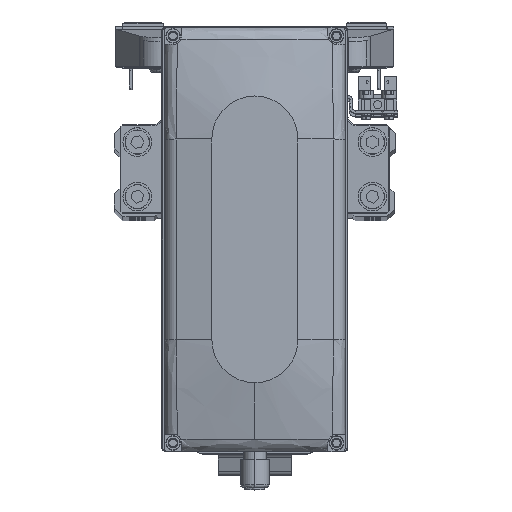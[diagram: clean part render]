
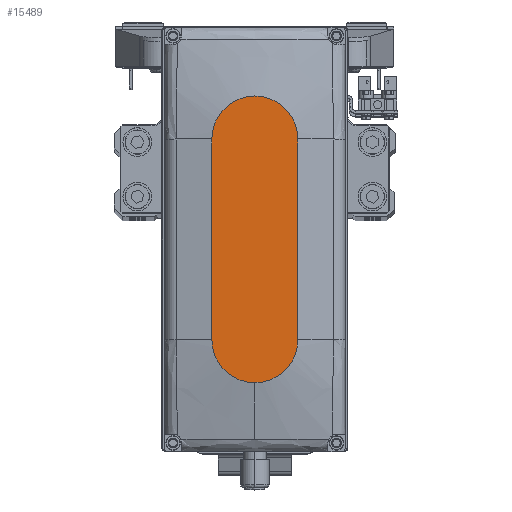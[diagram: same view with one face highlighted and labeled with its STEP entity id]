
A CAD part, top view. The second image highlights one B-rep face of the part: STEP entity #15489.
In plain terms, the highlighted planar face has unit normal (0, 0, 1).
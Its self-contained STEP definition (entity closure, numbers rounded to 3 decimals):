
#52 = ORIENTED_EDGE ( 'NONE', *, *, #42538, .T. ) ;
#132 = ORIENTED_EDGE ( 'NONE', *, *, #39911, .T. ) ;
#4567 = CIRCLE ( 'NONE', #31033, 15. ) ;
#4648 = CARTESIAN_POINT ( 'NONE',  ( 0., 0., 35. ) ) ;
#5146 = EDGE_CURVE ( 'NONE', #9627, #15486, #29084, .T. ) ;
#5672 = LINE ( 'NONE', #20106, #12039 ) ;
#6352 = VERTEX_POINT ( 'NONE', #21414 ) ;
#8672 = AXIS2_PLACEMENT_3D ( 'NONE', #9522, #23977, #38413 ) ;
#9455 = DIRECTION ( 'NONE',  ( -1., 0., 0. ) ) ;
#9522 = CARTESIAN_POINT ( 'NONE',  ( 35., 0., 35. ) ) ;
#9627 = VERTEX_POINT ( 'NONE', #35760 ) ;
#10056 = ORIENTED_EDGE ( 'NONE', *, *, #30570, .T. ) ;
#10806 = DIRECTION ( 'NONE',  ( 0., 0., 1. ) ) ;
#11360 = EDGE_CURVE ( 'NONE', #6352, #16470, #27464, .T. ) ;
#11894 = AXIS2_PLACEMENT_3D ( 'NONE', #43286, #10806, #25250 ) ;
#11911 = DIRECTION ( 'NONE',  ( 0., 0., 1. ) ) ;
#12039 = VECTOR ( 'NONE', #34550, 1000. ) ;
#13212 = CARTESIAN_POINT ( 'NONE',  ( -35., 15., 35. ) ) ;
#14275 = AXIS2_PLACEMENT_3D ( 'NONE', #4648, #19095, #33529 ) ;
#15486 = VERTEX_POINT ( 'NONE', #40646 ) ;
#15489 = ADVANCED_FACE ( 'NONE', ( #22656 ), #37094, .T. ) ;
#16470 = VERTEX_POINT ( 'NONE', #13212 ) ;
#19004 = CARTESIAN_POINT ( 'NONE',  ( -35., -15., 35. ) ) ;
#19095 = DIRECTION ( 'NONE',  ( 0., 0., 1. ) ) ;
#20106 = CARTESIAN_POINT ( 'NONE',  ( -35., -15., 35. ) ) ;
#21414 = CARTESIAN_POINT ( 'NONE',  ( 35., 15., 35. ) ) ;
#22656 = FACE_OUTER_BOUND ( 'NONE', #27860, .T. ) ;
#23977 = DIRECTION ( 'NONE',  ( 0., 0., 1. ) ) ;
#25250 = DIRECTION ( 'NONE',  ( 1., 0., 0. ) ) ;
#26365 = DIRECTION ( 'NONE',  ( 1., 0., 0. ) ) ;
#27464 = LINE ( 'NONE', #41931, #44149 ) ;
#27860 = EDGE_LOOP ( 'NONE', ( #29396, #52, #132, #35819, #10056 ) ) ;
#29084 = CIRCLE ( 'NONE', #8672, 15. ) ;
#29396 = ORIENTED_EDGE ( 'NONE', *, *, #11360, .T. ) ;
#30570 = EDGE_CURVE ( 'NONE', #15486, #6352, #32328, .T. ) ;
#31033 = AXIS2_PLACEMENT_3D ( 'NONE', #44392, #11911, #26365 ) ;
#32328 = CIRCLE ( 'NONE', #11894, 15. ) ;
#32433 = VERTEX_POINT ( 'NONE', #19004 ) ;
#33529 = DIRECTION ( 'NONE',  ( 1., 0., 0. ) ) ;
#34550 = DIRECTION ( 'NONE',  ( 1., 0., 0. ) ) ;
#35760 = CARTESIAN_POINT ( 'NONE',  ( 35., -15., 35. ) ) ;
#35819 = ORIENTED_EDGE ( 'NONE', *, *, #5146, .T. ) ;
#37094 = PLANE ( 'NONE',  #14275 ) ;
#38413 = DIRECTION ( 'NONE',  ( 1., 0., 0. ) ) ;
#39911 = EDGE_CURVE ( 'NONE', #32433, #9627, #5672, .T. ) ;
#40646 = CARTESIAN_POINT ( 'NONE',  ( 50., 0., 35. ) ) ;
#41931 = CARTESIAN_POINT ( 'NONE',  ( -35., 15., 35. ) ) ;
#42538 = EDGE_CURVE ( 'NONE', #16470, #32433, #4567, .T. ) ;
#43286 = CARTESIAN_POINT ( 'NONE',  ( 35., 0., 35. ) ) ;
#44149 = VECTOR ( 'NONE', #9455, 1000. ) ;
#44392 = CARTESIAN_POINT ( 'NONE',  ( -35., 0., 35. ) ) ;
